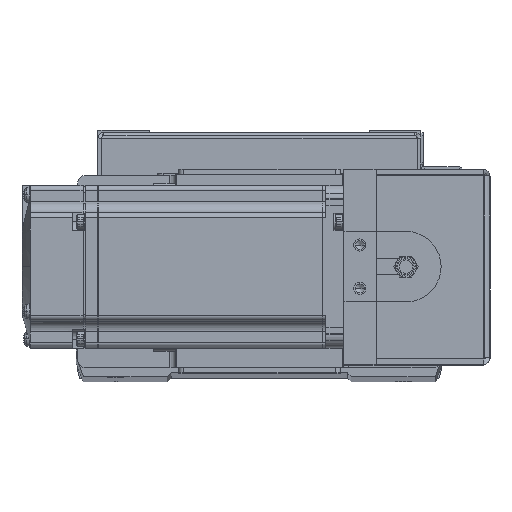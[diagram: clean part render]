
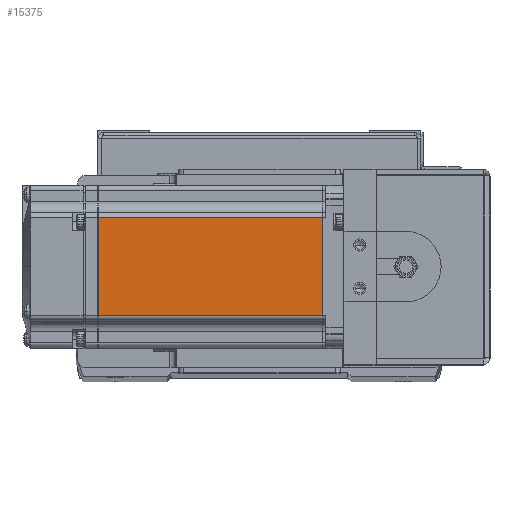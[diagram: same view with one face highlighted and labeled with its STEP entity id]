
A CAD part, top view. The second image highlights one B-rep face of the part: STEP entity #15375.
In plain terms, the highlighted planar face has unit normal (0, 0, 1).
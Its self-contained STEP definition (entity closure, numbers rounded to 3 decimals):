
#119 = ORIENTED_EDGE ( 'NONE', *, *, #10188, .F. ) ;
#332 = CARTESIAN_POINT ( 'NONE',  ( -90.45, 18., 30. ) ) ;
#2108 = DIRECTION ( 'NONE',  ( 0., 0., 1. ) ) ;
#3139 = ORIENTED_EDGE ( 'NONE', *, *, #6595, .T. ) ;
#3517 = LINE ( 'NONE', #26912, #27453 ) ;
#4842 = CARTESIAN_POINT ( 'NONE',  ( -7.75, -18., 30. ) ) ;
#5492 = VECTOR ( 'NONE', #29288, 1000. ) ;
#6595 = EDGE_CURVE ( 'NONE', #37586, #22539, #3517, .T. ) ;
#7489 = CARTESIAN_POINT ( 'NONE',  ( -6.5, 18., 30. ) ) ;
#9978 = LINE ( 'NONE', #7489, #19951 ) ;
#10188 = EDGE_CURVE ( 'NONE', #31765, #22539, #33085, .T. ) ;
#11848 = LINE ( 'NONE', #24231, #5492 ) ;
#12696 = ORIENTED_EDGE ( 'NONE', *, *, #13936, .T. ) ;
#12752 = DIRECTION ( 'NONE',  ( -1., 0., 0. ) ) ;
#12861 = DIRECTION ( 'NONE',  ( -1., 0., 0. ) ) ;
#13097 = CARTESIAN_POINT ( 'NONE',  ( -7.75, 18., 30. ) ) ;
#13476 = VERTEX_POINT ( 'NONE', #13097 ) ;
#13816 = DIRECTION ( 'NONE',  ( 1., 0., 0. ) ) ;
#13936 = EDGE_CURVE ( 'NONE', #13476, #37586, #9978, .T. ) ;
#15099 = CARTESIAN_POINT ( 'NONE',  ( -90.45, -18., 30. ) ) ;
#15375 = ADVANCED_FACE ( 'NONE', ( #19576 ), #31281, .T. ) ;
#19576 = FACE_OUTER_BOUND ( 'NONE', #31409, .T. ) ;
#19951 = VECTOR ( 'NONE', #12861, 1000. ) ;
#22539 = VERTEX_POINT ( 'NONE', #15099 ) ;
#24231 = CARTESIAN_POINT ( 'NONE',  ( -7.75, 0., 30. ) ) ;
#25708 = CARTESIAN_POINT ( 'NONE',  ( -6.5, -25., 30. ) ) ;
#26194 = AXIS2_PLACEMENT_3D ( 'NONE', #25708, #2108, #13816 ) ;
#26912 = CARTESIAN_POINT ( 'NONE',  ( -90.45, 0., 30. ) ) ;
#27453 = VECTOR ( 'NONE', #30169, 1000. ) ;
#28139 = VECTOR ( 'NONE', #12752, 1000. ) ;
#29014 = ORIENTED_EDGE ( 'NONE', *, *, #36831, .F. ) ;
#29288 = DIRECTION ( 'NONE',  ( 0., -1., 0. ) ) ;
#30169 = DIRECTION ( 'NONE',  ( 0., -1., 0. ) ) ;
#30198 = CARTESIAN_POINT ( 'NONE',  ( -6.5, -18., 30. ) ) ;
#31281 = PLANE ( 'NONE',  #26194 ) ;
#31409 = EDGE_LOOP ( 'NONE', ( #29014, #12696, #3139, #119 ) ) ;
#31765 = VERTEX_POINT ( 'NONE', #4842 ) ;
#33085 = LINE ( 'NONE', #30198, #28139 ) ;
#36831 = EDGE_CURVE ( 'NONE', #13476, #31765, #11848, .T. ) ;
#37586 = VERTEX_POINT ( 'NONE', #332 ) ;
